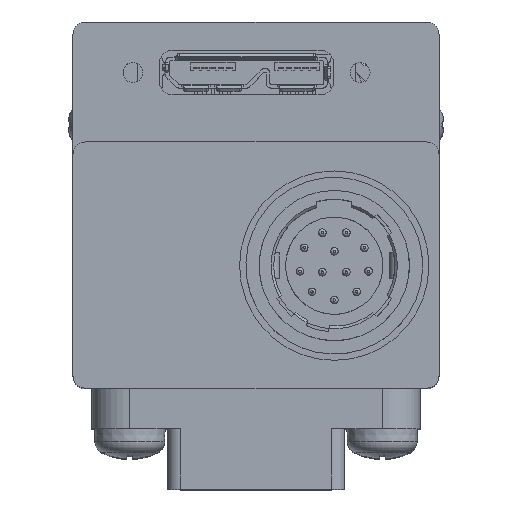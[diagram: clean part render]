
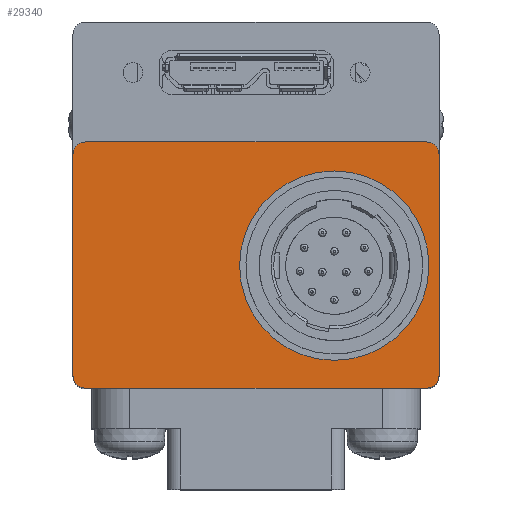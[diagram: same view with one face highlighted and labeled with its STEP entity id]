
A CAD part, top view. The second image highlights one B-rep face of the part: STEP entity #29340.
In plain terms, the highlighted planar face has unit normal (0, 0, 1).
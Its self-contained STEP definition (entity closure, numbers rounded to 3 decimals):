
#586=FACE_BOUND('',#4267,.T.);
#2537=FACE_OUTER_BOUND('',#4266,.T.);
#4266=EDGE_LOOP('',(#23771,#23772,#23773,#23774,#23775,#23776,#23777,#23778));
#4267=EDGE_LOOP('',(#23779));
#6847=LINE('',#48835,#9293);
#6848=LINE('',#48839,#9294);
#6849=LINE('',#48843,#9295);
#6850=LINE('',#48846,#9296);
#9293=VECTOR('',#38902,10.);
#9294=VECTOR('',#38905,10.);
#9295=VECTOR('',#38908,10.);
#9296=VECTOR('',#38911,10.);
#10571=CIRCLE('',#31967,1.);
#10573=CIRCLE('',#31970,1.);
#10574=CIRCLE('',#31971,1.);
#10575=CIRCLE('',#31972,1.);
#10576=CIRCLE('',#31973,7.5);
#13048=VERTEX_POINT('',#48825);
#13049=VERTEX_POINT('',#48826);
#13052=VERTEX_POINT('',#48834);
#13053=VERTEX_POINT('',#48836);
#13054=VERTEX_POINT('',#48838);
#13055=VERTEX_POINT('',#48840);
#13056=VERTEX_POINT('',#48842);
#13057=VERTEX_POINT('',#48844);
#13058=VERTEX_POINT('',#48847);
#16767=EDGE_CURVE('',#13048,#13049,#10571,.T.);
#16771=EDGE_CURVE('',#13048,#13052,#6847,.T.);
#16772=EDGE_CURVE('',#13053,#13052,#10573,.T.);
#16773=EDGE_CURVE('',#13053,#13054,#6848,.T.);
#16774=EDGE_CURVE('',#13055,#13054,#10574,.T.);
#16775=EDGE_CURVE('',#13055,#13056,#6849,.T.);
#16776=EDGE_CURVE('',#13057,#13056,#10575,.T.);
#16777=EDGE_CURVE('',#13057,#13049,#6850,.T.);
#16778=EDGE_CURVE('',#13058,#13058,#10576,.T.);
#23771=ORIENTED_EDGE('',*,*,#16767,.F.);
#23772=ORIENTED_EDGE('',*,*,#16771,.T.);
#23773=ORIENTED_EDGE('',*,*,#16772,.F.);
#23774=ORIENTED_EDGE('',*,*,#16773,.T.);
#23775=ORIENTED_EDGE('',*,*,#16774,.F.);
#23776=ORIENTED_EDGE('',*,*,#16775,.T.);
#23777=ORIENTED_EDGE('',*,*,#16776,.F.);
#23778=ORIENTED_EDGE('',*,*,#16777,.T.);
#23779=ORIENTED_EDGE('',*,*,#16778,.T.);
#26512=PLANE('',#31969);
#29340=ADVANCED_FACE('',(#2537,#586),#26512,.F.);
#31967=AXIS2_PLACEMENT_3D('',#48827,#38894,#38895);
#31969=AXIS2_PLACEMENT_3D('',#48833,#38900,#38901);
#31970=AXIS2_PLACEMENT_3D('',#48837,#38903,#38904);
#31971=AXIS2_PLACEMENT_3D('',#48841,#38906,#38907);
#31972=AXIS2_PLACEMENT_3D('',#48845,#38909,#38910);
#31973=AXIS2_PLACEMENT_3D('',#48848,#38912,#38913);
#38894=DIRECTION('center_axis',(0.,0.,
-1.));
#38895=DIRECTION('ref_axis',(0.707,0.707,0.));
#38900=DIRECTION('center_axis',(0.,0.,
-1.));
#38901=DIRECTION('ref_axis',(-1.,0.,0.));
#38902=DIRECTION('',(-1.,0.,0.));
#38903=DIRECTION('center_axis',(0.,0.,
-1.));
#38904=DIRECTION('ref_axis',(-0.707,0.707,0.));
#38905=DIRECTION('',(0.,-1.,0.));
#38906=DIRECTION('center_axis',(0.,0.,
-1.));
#38907=DIRECTION('ref_axis',(-0.707,-0.707,0.));
#38908=DIRECTION('',(1.,0.,0.));
#38909=DIRECTION('center_axis',(0.,0.,
-1.));
#38910=DIRECTION('ref_axis',(0.707,-0.707,0.));
#38911=DIRECTION('',(0.,1.,0.));
#38912=DIRECTION('center_axis',(0.,0.,
-1.));
#38913=DIRECTION('ref_axis',(1.,0.,0.));
#48825=CARTESIAN_POINT('',(13.5,5.,39.3));
#48826=CARTESIAN_POINT('',(14.5,4.,39.3));
#48827=CARTESIAN_POINT('Origin',(13.5,4.,39.3));
#48833=CARTESIAN_POINT('Origin',(0.,0.,
39.3));
#48834=CARTESIAN_POINT('',(-13.5,5.,39.3));
#48835=CARTESIAN_POINT('',(-7.25,5.,39.3));
#48836=CARTESIAN_POINT('',(-14.5,4.,39.3));
#48837=CARTESIAN_POINT('Origin',(-13.5,4.,39.3));
#48838=CARTESIAN_POINT('',(-14.5,-13.5,39.3));
#48839=CARTESIAN_POINT('',(-14.5,14.5,39.3));
#48840=CARTESIAN_POINT('',(-13.5,-14.5,39.3));
#48841=CARTESIAN_POINT('Origin',(-13.5,-13.5,39.3));
#48842=CARTESIAN_POINT('',(13.5,-14.5,39.3));
#48843=CARTESIAN_POINT('',(-14.5,-14.5,39.3));
#48844=CARTESIAN_POINT('',(14.5,-13.5,39.3));
#48845=CARTESIAN_POINT('Origin',(13.5,-13.5,39.3));
#48846=CARTESIAN_POINT('',(14.5,-14.5,39.3));
#48847=CARTESIAN_POINT('',(13.7,-4.8,39.3));
#48848=CARTESIAN_POINT('Origin',(6.2,-4.8,39.3));
